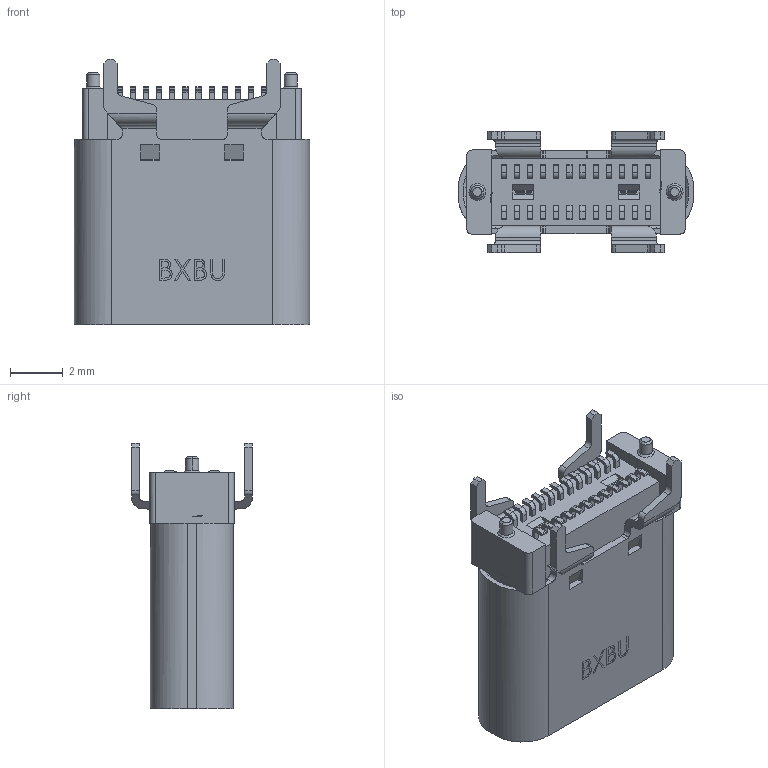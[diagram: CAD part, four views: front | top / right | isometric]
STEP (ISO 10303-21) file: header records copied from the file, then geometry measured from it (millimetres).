
FILE_DESCRIPTION (( 'STEP AP214' ), '1' );
FILE_NAME ('U5418-24PN9.0L.STEP', '2026-07-31T02:52:39', ( '' ), ( '' ), 'SwSTEP 2.0', 'SolidWorks 2024', '' );
FILE_SCHEMA (( 'AUTOMOTIVE_DESIGN' ));
Length unit declared in the file: millimetre
Products named in the file (5): TYPE-C_-24P_直立_8.8H_脚距6.2-20210520.stp; hsg1.1; U5418-24PN9.0L; U5418-24PN9.0L(2); hsg1.1-0
Assembly tree (4 placements, depth 5):
  U5418-24PN9.0L
    U5418-24PN9.0L(2)
      TYPE-C_-24P_直立_8.8H_脚距6.2-20210520.stp
        hsg1.1
          hsg1.1-0
Bounding box: 8.94 x 4.6 x 10.1 mm (x, y, z)
Surface area: 585.1 mm2 (no closed solid volume)
Topology: 0 solids, 4 shells, 887 faces, 2499 edges, 1636 vertices
Faces by surface type: plane 663, cylinder 182, cone 28, torus 14
Entity records: 31854 total; most frequent: CARTESIAN_POINT 13669, ORIENTED_EDGE 4990, EDGE_CURVE 2499, B_SPLINE_CURVE_WITH_KNOTS 2463, DIRECTION 1830, VERTEX_POINT 1636, EDGE_LOOP 949, AXIS2_PLACEMENT_3D 897
